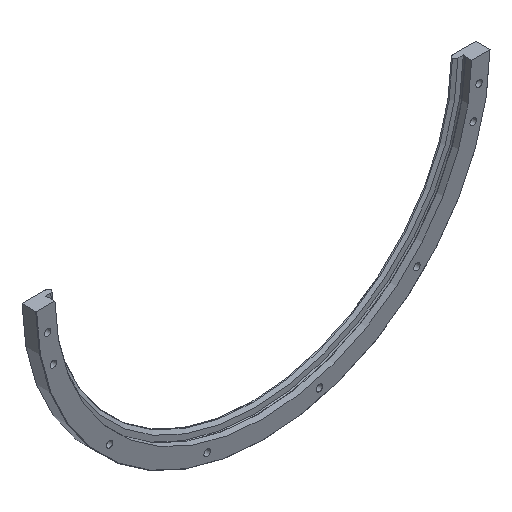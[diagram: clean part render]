
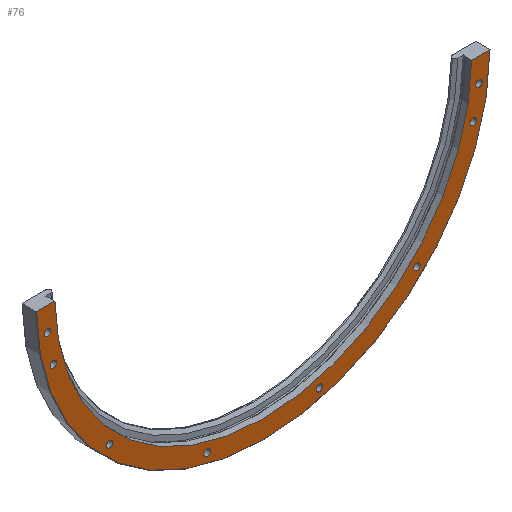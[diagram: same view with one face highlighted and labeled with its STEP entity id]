
A CAD part, isometric view. The second image highlights one B-rep face of the part: STEP entity #76.
In plain terms, the highlighted planar face has unit normal (0, -1, 0).
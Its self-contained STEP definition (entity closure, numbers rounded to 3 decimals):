
#76 = ADVANCED_FACE( '', ( #116, #117, #118, #119, #120, #121, #122, #123, #124 ), #125, .T. );
#116 = FACE_BOUND( '', #232, .T. );
#117 = FACE_BOUND( '', #233, .T. );
#118 = FACE_BOUND( '', #234, .T. );
#119 = FACE_BOUND( '', #235, .T. );
#120 = FACE_BOUND( '', #236, .T. );
#121 = FACE_BOUND( '', #237, .T. );
#122 = FACE_BOUND( '', #238, .T. );
#123 = FACE_BOUND( '', #239, .T. );
#124 = FACE_OUTER_BOUND( '', #240, .T. );
#125 = PLANE( '', #241 );
#232 = EDGE_LOOP( '', ( #361 ) );
#233 = EDGE_LOOP( '', ( #362 ) );
#234 = EDGE_LOOP( '', ( #363 ) );
#235 = EDGE_LOOP( '', ( #364 ) );
#236 = EDGE_LOOP( '', ( #365 ) );
#237 = EDGE_LOOP( '', ( #366 ) );
#238 = EDGE_LOOP( '', ( #367 ) );
#239 = EDGE_LOOP( '', ( #368 ) );
#240 = EDGE_LOOP( '', ( #369, #370, #371, #372 ) );
#241 = AXIS2_PLACEMENT_3D( '', #373, #374, #375 );
#361 = ORIENTED_EDGE( '', *, *, #608, .F. );
#362 = ORIENTED_EDGE( '', *, *, #609, .F. );
#363 = ORIENTED_EDGE( '', *, *, #610, .F. );
#364 = ORIENTED_EDGE( '', *, *, #611, .F. );
#365 = ORIENTED_EDGE( '', *, *, #612, .F. );
#366 = ORIENTED_EDGE( '', *, *, #613, .F. );
#367 = ORIENTED_EDGE( '', *, *, #614, .F. );
#368 = ORIENTED_EDGE( '', *, *, #615, .F. );
#369 = ORIENTED_EDGE( '', *, *, #616, .T. );
#370 = ORIENTED_EDGE( '', *, *, #602, .T. );
#371 = ORIENTED_EDGE( '', *, *, #617, .F. );
#372 = ORIENTED_EDGE( '', *, *, #618, .T. );
#373 = CARTESIAN_POINT( '', ( -221.25, 0., 0. ) );
#374 = DIRECTION( '', ( 0., -1., 0. ) );
#375 = DIRECTION( '', ( 0., 0., -1. ) );
#602 = EDGE_CURVE( '', #677, #675, #678, .T. );
#608 = EDGE_CURVE( '', #688, #688, #689, .T. );
#609 = EDGE_CURVE( '', #690, #690, #691, .T. );
#610 = EDGE_CURVE( '', #692, #692, #693, .T. );
#611 = EDGE_CURVE( '', #694, #694, #695, .T. );
#612 = EDGE_CURVE( '', #696, #696, #697, .T. );
#613 = EDGE_CURVE( '', #698, #698, #699, .T. );
#614 = EDGE_CURVE( '', #700, #700, #701, .T. );
#615 = EDGE_CURVE( '', #702, #702, #703, .T. );
#616 = EDGE_CURVE( '', #704, #677, #705, .T. );
#617 = EDGE_CURVE( '', #706, #675, #707, .T. );
#618 = EDGE_CURVE( '', #706, #704, #708, .T. );
#675 = VERTEX_POINT( '', #814 );
#677 = VERTEX_POINT( '', #817 );
#678 = LINE( '', #818, #819 );
#688 = VERTEX_POINT( '', #840 );
#689 = CIRCLE( '', #841, 3.4 );
#690 = VERTEX_POINT( '', #842 );
#691 = CIRCLE( '', #843, 3.4 );
#692 = VERTEX_POINT( '', #844 );
#693 = CIRCLE( '', #845, 3.4 );
#694 = VERTEX_POINT( '', #846 );
#695 = CIRCLE( '', #847, 3.4 );
#696 = VERTEX_POINT( '', #848 );
#697 = CIRCLE( '', #849, 3.4 );
#698 = VERTEX_POINT( '', #850 );
#699 = CIRCLE( '', #851, 3.4 );
#700 = VERTEX_POINT( '', #852 );
#701 = CIRCLE( '', #853, 3.4 );
#702 = VERTEX_POINT( '', #854 );
#703 = CIRCLE( '', #855, 3.4 );
#704 = VERTEX_POINT( '', #856 );
#705 = CIRCLE( '', #857, 240.75 );
#706 = VERTEX_POINT( '', #858 );
#707 = CIRCLE( '', #859, 221.25 );
#708 = LINE( '', #860, #861 );
#814 = CARTESIAN_POINT( '', ( 221.236, 0., -2.5 ) );
#817 = CARTESIAN_POINT( '', ( 240.737, 0., -2.5 ) );
#818 = CARTESIAN_POINT( '', ( 251.25, 0., -2.5 ) );
#819 = VECTOR( '', #972, 1000. );
#840 = CARTESIAN_POINT( '', ( 163.165, 0., -166.565 ) );
#841 = AXIS2_PLACEMENT_3D( '', #975, #976, #977 );
#842 = CARTESIAN_POINT( '', ( 59.722, 0., -226.287 ) );
#843 = AXIS2_PLACEMENT_3D( '', #978, #979, #980 );
#844 = CARTESIAN_POINT( '', ( -59.722, 0., -226.287 ) );
#845 = AXIS2_PLACEMENT_3D( '', #981, #982, #983 );
#846 = CARTESIAN_POINT( '', ( -163.165, 0., -166.565 ) );
#847 = AXIS2_PLACEMENT_3D( '', #984, #985, #986 );
#848 = CARTESIAN_POINT( '', ( -222.887, 0., -63.122 ) );
#849 = AXIS2_PLACEMENT_3D( '', #987, #988, #989 );
#850 = CARTESIAN_POINT( '', ( -229.105, 0., -30.902 ) );
#851 = AXIS2_PLACEMENT_3D( '', #990, #991, #992 );
#852 = CARTESIAN_POINT( '', ( 222.887, 0., -63.122 ) );
#853 = AXIS2_PLACEMENT_3D( '', #993, #994, #995 );
#854 = CARTESIAN_POINT( '', ( 229.105, 0., -30.902 ) );
#855 = AXIS2_PLACEMENT_3D( '', #996, #997, #998 );
#856 = CARTESIAN_POINT( '', ( -240.737, 0., -2.5 ) );
#857 = AXIS2_PLACEMENT_3D( '', #999, #1000, #1001 );
#858 = CARTESIAN_POINT( '', ( -221.236, 0., -2.5 ) );
#859 = AXIS2_PLACEMENT_3D( '', #1002, #1003, #1004 );
#860 = CARTESIAN_POINT( '', ( 251.25, 0., -2.5 ) );
#861 = VECTOR( '', #1005, 1000. );
#972 = DIRECTION( '', ( -1., 0., 0. ) );
#975 = CARTESIAN_POINT( '', ( 163.165, 0., -163.165 ) );
#976 = DIRECTION( '', ( 0., -1., 0. ) );
#977 = DIRECTION( '', ( 0., 0., -1. ) );
#978 = CARTESIAN_POINT( '', ( 59.722, 0., -222.887 ) );
#979 = DIRECTION( '', ( 0., -1., 0. ) );
#980 = DIRECTION( '', ( 0., 0., -1. ) );
#981 = CARTESIAN_POINT( '', ( -59.722, 0., -222.887 ) );
#982 = DIRECTION( '', ( 0., -1., 0. ) );
#983 = DIRECTION( '', ( 0., 0., -1. ) );
#984 = CARTESIAN_POINT( '', ( -163.165, 0., -163.165 ) );
#985 = DIRECTION( '', ( 0., -1., 0. ) );
#986 = DIRECTION( '', ( 0., 0., -1. ) );
#987 = CARTESIAN_POINT( '', ( -222.887, 0., -59.722 ) );
#988 = DIRECTION( '', ( 0., -1., 0. ) );
#989 = DIRECTION( '', ( 0., 0., -1. ) );
#990 = CARTESIAN_POINT( '', ( -229.105, 0., -27.502 ) );
#991 = DIRECTION( '', ( 0., -1., 0. ) );
#992 = DIRECTION( '', ( 0., 0., -1. ) );
#993 = CARTESIAN_POINT( '', ( 222.887, 0., -59.722 ) );
#994 = DIRECTION( '', ( 0., -1., 0. ) );
#995 = DIRECTION( '', ( 0., 0., -1. ) );
#996 = CARTESIAN_POINT( '', ( 229.105, 0., -27.502 ) );
#997 = DIRECTION( '', ( 0., -1., 0. ) );
#998 = DIRECTION( '', ( 0., 0., -1. ) );
#999 = CARTESIAN_POINT( '', ( 0., 0., 0. ) );
#1000 = DIRECTION( '', ( 0., -1., 0. ) );
#1001 = DIRECTION( '', ( 0., 0., -1. ) );
#1002 = CARTESIAN_POINT( '', ( 0., 0., 0. ) );
#1003 = DIRECTION( '', ( 0., -1., 0. ) );
#1004 = DIRECTION( '', ( 0., 0., -1. ) );
#1005 = DIRECTION( '', ( -1., 0., 0. ) );
